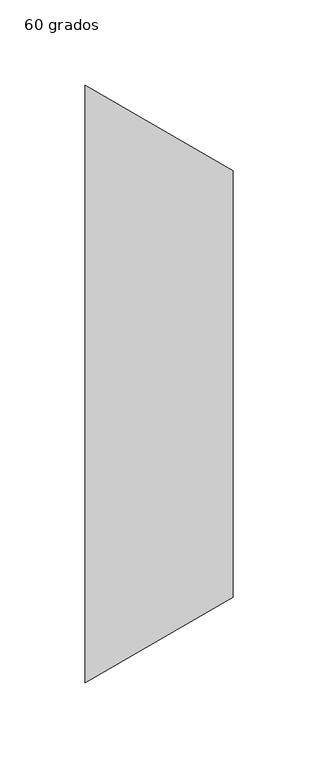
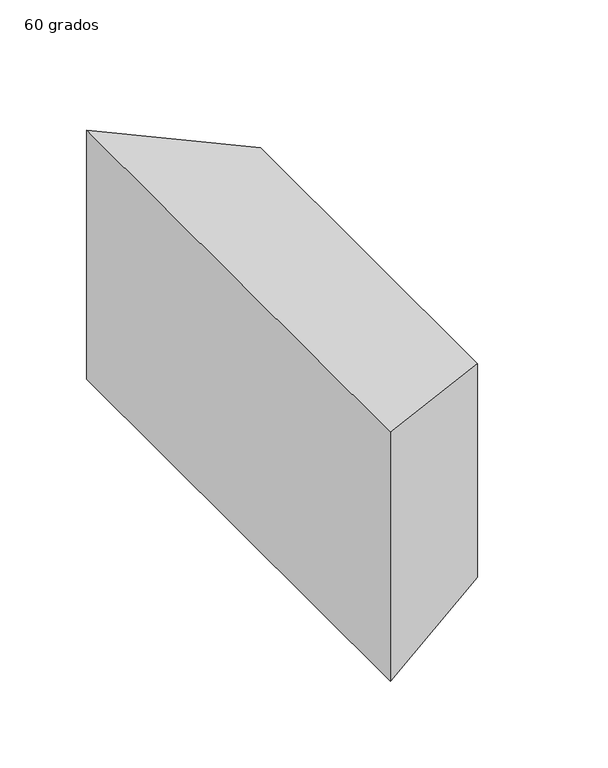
"""IFC4 building model written with IfcOpenShell, lengths in millimetres: duct fitting geometry, M_Transición rectangular - Ángulo : 60 grados."""

from ifc_helpers import new_model, si_unit, origin, place, context, project, spatial, faceted_brep, source, transform, mapped, element, save


def duct_fitting_60_grados_8a2c3d38(model_context):
    return source(origin(), model_context, "Body", "Brep", [
        faceted_brep([(86.6025404, -125.0, 75.0), (86.6025404, -125.0, -75.0), (86.6025404, 125.0, -75.0), (86.6025404, 125.0, 75.0), (0.0, -175.0, 87.5), (0.0, 175.0, 87.5), (0.0, 175.0, -87.5), (0.0, -175.0, -87.5)], [[[0, 1, 2, 3]], [[4, 5, 6, 7]], [[4, 7, 1, 0]], [[7, 6, 2, 1]], [[6, 5, 3, 2]], [[5, 4, 0, 3]]]),
    ])


if __name__ == "__main__":
    model = new_model("IFC4")
    model_context = context("Model", 3, world=origin())
    ifc_project = project(units=[si_unit("LENGTHUNIT", "METRE", prefix="MILLI")], contexts=[model_context])
    site = spatial("IfcSite", under=ifc_project)
    building = spatial("IfcBuilding", under=site)
    placement = place(None, origin())
    duct_fitting_60_grados_shape = duct_fitting_60_grados_8a2c3d38(model_context)
    element("IfcDuctFitting", 1, ObjectType="M_Transición rectangular - Ángulo : 60 grados", at=placement, inside=building, context=model_context, shape_type="MappedRepresentation", body=[
        mapped(duct_fitting_60_grados_shape, transform((0.0, 0.0, 0.0), x_axis=(1.0, 0.0, 0.0), y_axis=(0.0, 1.0, 0.0), z_axis=(0.0, 0.0, 1.0))),
    ])
    save(model, "model.ifc")
